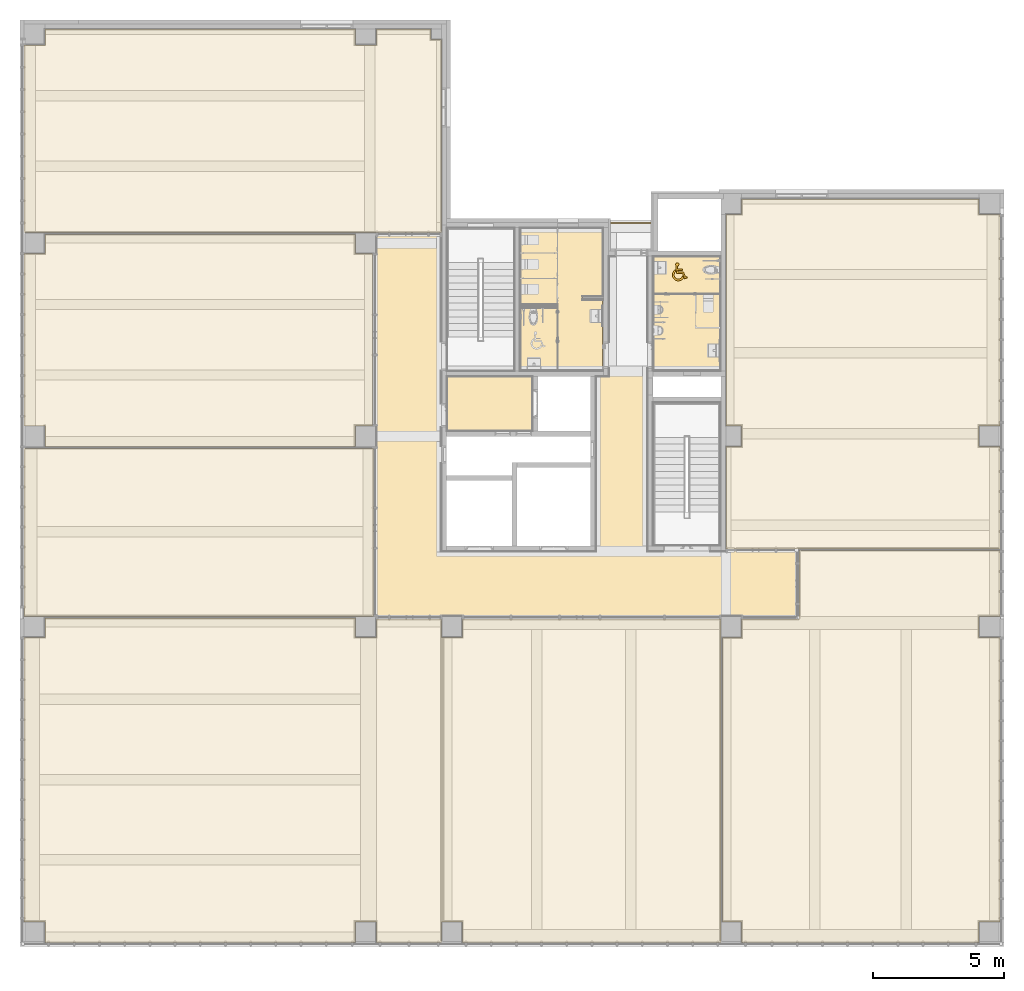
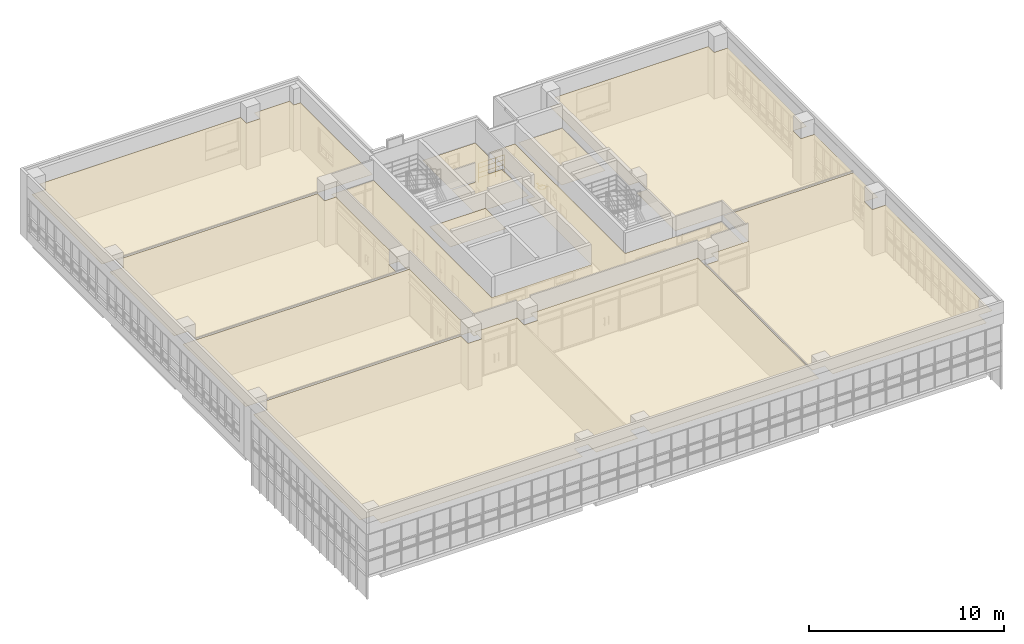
# One storey, part 73 of 81: 5 coverings, 1 door, 1 railing.
"""IFC2X3 building model written with IfcOpenShell, lengths in millimetres."""

from ifc_helpers import new_model, entity, si_unit, converted_unit, derived_unit, direction, frame, frame_2d, origin, origin_2d_with_axis, place, context, subcontext, project, spatial, polyline, circle_curve, parameter, trimmed, segment, composite_curve, rectangle, circle, outline, extrude, source, transform, mapped, material, material_list, layer, layer_set, layer_usage, type_object, type_shapes, element, save


model = new_model("IFC2X3")

# Units and contexts
model_context = context("Model", 3, precision=0.01, world=origin(), true_north=direction((6.123031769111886e-17, 1.0)))
body_context = subcontext(model_context, "Body", "Model", "MODEL_VIEW")
ifc_project = project(units=[si_unit("LENGTHUNIT", "METRE", prefix="MILLI"), si_unit("AREAUNIT", "SQUARE_METRE"), si_unit("VOLUMEUNIT", "CUBIC_METRE"), converted_unit("PLANEANGLEUNIT", "DEGREE", entity("IfcRatioMeasure", 0.017453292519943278), si_unit("PLANEANGLEUNIT", "RADIAN"), dimensions=[0, 0, 0, 0, 0, 0, 0]), si_unit("MASSUNIT", "GRAM", prefix="KILO"), derived_unit("MASSDENSITYUNIT", [(si_unit("MASSUNIT", "GRAM", prefix="KILO"), 1), (si_unit("LENGTHUNIT", "METRE"), -3)]), derived_unit("MOMENTOFINERTIAUNIT", [(si_unit("LENGTHUNIT", "METRE"), 4)]), si_unit("TIMEUNIT", "SECOND"), si_unit("FREQUENCYUNIT", "HERTZ"), si_unit("THERMODYNAMICTEMPERATUREUNIT", "DEGREE_CELSIUS"), derived_unit("THERMALTRANSMITTANCEUNIT", [(si_unit("MASSUNIT", "GRAM", prefix="KILO"), 1), (si_unit("THERMODYNAMICTEMPERATUREUNIT", "KELVIN"), -1), (si_unit("TIMEUNIT", "SECOND"), -3)]), derived_unit("VOLUMETRICFLOWRATEUNIT", [(si_unit("LENGTHUNIT", "METRE"), 3), (si_unit("TIMEUNIT", "SECOND"), -1)]), derived_unit("MASSFLOWRATEUNIT", [(si_unit("MASSUNIT", "GRAM", prefix="KILO"), 1), (si_unit("TIMEUNIT", "SECOND"), -1)]), derived_unit("ROTATIONALFREQUENCYUNIT", [(si_unit("TIMEUNIT", "SECOND"), -1)]), si_unit("ELECTRICCURRENTUNIT", "AMPERE"), si_unit("ELECTRICVOLTAGEUNIT", "VOLT"), si_unit("POWERUNIT", "WATT"), si_unit("FORCEUNIT", "NEWTON", prefix="KILO"), si_unit("ILLUMINANCEUNIT", "LUX"), si_unit("LUMINOUSFLUXUNIT", "LUMEN"), si_unit("LUMINOUSINTENSITYUNIT", "CANDELA"), derived_unit("USERDEFINED", [(si_unit("MASSUNIT", "GRAM", prefix="KILO"), -1), (si_unit("LENGTHUNIT", "METRE"), -2), (si_unit("TIMEUNIT", "SECOND"), 3), (si_unit("LUMINOUSFLUXUNIT", "LUMEN"), 1)]), derived_unit("SOUNDPOWERUNIT", [(si_unit("MASSUNIT", "GRAM", prefix="KILO"), 1), (si_unit("LENGTHUNIT", "METRE"), 2), (si_unit("TIMEUNIT", "SECOND"), -3)]), derived_unit("SOUNDPRESSUREUNIT", [(si_unit("MASSUNIT", "GRAM", prefix="KILO"), 1), (si_unit("LENGTHUNIT", "METRE"), -1), (si_unit("TIMEUNIT", "SECOND"), -2)]), derived_unit("LINEARVELOCITYUNIT", [(si_unit("LENGTHUNIT", "METRE"), 1), (si_unit("TIMEUNIT", "SECOND"), -1)]), si_unit("PRESSUREUNIT", "PASCAL"), derived_unit("USERDEFINED", [(si_unit("LENGTHUNIT", "METRE"), -2), (si_unit("MASSUNIT", "GRAM", prefix="KILO"), 1), (si_unit("TIMEUNIT", "SECOND"), -2)]), derived_unit("LINEARFORCEUNIT", [(si_unit("MASSUNIT", "GRAM", prefix="KILO"), 1), (si_unit("LENGTHUNIT", "METRE"), 1), (si_unit("TIMEUNIT", "SECOND"), -2), (si_unit("LENGTHUNIT", "METRE"), -1)]), derived_unit("PLANARFORCEUNIT", [(si_unit("MASSUNIT", "GRAM", prefix="KILO"), 1), (si_unit("LENGTHUNIT", "METRE"), 1), (si_unit("TIMEUNIT", "SECOND"), -2), (si_unit("LENGTHUNIT", "METRE"), -2)])], contexts=[model_context])

# Site, building, storey
site_placement = place(None, frame((-14167.972527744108, -657.2125860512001, 0.0)))
site = spatial("IfcSite", under=ifc_project, at=site_placement, Name="Default", CompositionType="ELEMENT")
building_placement = place(site_placement, origin())
building = spatial("IfcBuilding", under=site, at=building_placement, Name="Sample Building", CompositionType="ELEMENT")
storey_placement = place(building_placement, frame((0.0, 0.0, 13400.0)))
storey = spatial("IfcBuildingStorey", under=building, at=storey_placement, Name="지상 4층", CompositionType="ELEMENT", Elevation=13400.00000000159)

# Door
ifc_material_1 = material(Name="KBIMS-노면용 페인트_진하늘색")
ifc_material_list_1 = material_list([ifc_material_1, ifc_material_1])
door_style = type_object("IfcDoorStyle", Name="SE251-장애인전용 표시:SE251-장애인전용 표시", ConstructionType="NOTDEFINED", OperationType="NOTDEFINED", ParameterTakesPrecedence=False, Sizeable=False, material=ifc_material_list_1)
shared_shape = source(origin(), body_context, "Body", "SweptSolid", [
    extrude(outline(composite_curve([segment(trimmed(circle_curve(frame_2d((-36.68855283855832, -47.74251805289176), x_axis=(1.0, 0.0)), 229.68578343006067), [parameter(118.63343780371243)], [parameter(330.18087778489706)], True, "PARAMETER"), True, "CONTINUOUS"), segment(polyline([(162.58672770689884, -161.9568852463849), (125.13875807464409, -69.8626552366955)]), True, "CONTINUOUS"), segment(trimmed(circle_curve(frame_2d((-36.68855283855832, -47.74251805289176), x_axis=(1.0, 0.0)), 163.33211266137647), [parameter(129.67752554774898)], [parameter(352.21649007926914)], True, "PARAMETER"), False, "CONTINUOUS"), segment(polyline([(-140.97054841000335, 77.96605136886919), (-146.7549373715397, 153.85348911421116)]), True, "CONTINUOUS")], self_intersect=False)), frame((71.31807136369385, -37.57408412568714, 0.0)), (0.0, 0.0, 1.0), 1.5875),
    extrude(outline(composite_curve([segment(polyline([(-282.31222354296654, -186.97456283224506), (25.012127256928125, -186.974562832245)]), True, "CONTINUOUS"), segment(polyline([(25.012127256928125, -186.974562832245), (42.305091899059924, 39.89793596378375)]), True, "CONTINUOUS"), segment(polyline([(42.30509189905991, 39.89793596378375), (263.5159692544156, 110.7895168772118)]), True, "CONTINUOUS"), segment(polyline([(263.5159692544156, 110.7895168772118), (230.53394569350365, 215.81642815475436)]), True, "CONTINUOUS"), segment(polyline([(230.53394569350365, 215.81642815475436), (181.07321552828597, 202.95741624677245)]), True, "CONTINUOUS"), segment(polyline([(181.07321552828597, 202.95741624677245), (198.08692429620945, 148.77950087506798)]), True, "CONTINUOUS"), segment(polyline([(198.08692429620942, 148.77950087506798), (-10.806586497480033, 81.83527372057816)]), True, "CONTINUOUS"), segment(polyline([(-10.806586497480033, 81.83527372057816), (-27.016565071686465, -130.829149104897)]), True, "CONTINUOUS"), segment(polyline([(-27.01656507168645, -130.829149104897), (-74.51295100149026, -130.82914910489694)]), True, "CONTINUOUS"), segment(polyline([(-74.51295100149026, -130.82914910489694), (-60.984513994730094, 46.65518467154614)]), True, "CONTINUOUS"), segment(polyline([(-60.984513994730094, 46.65518467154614), (-111.87816757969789, 50.53446557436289)]), True, "CONTINUOUS"), segment(polyline([(-111.87816757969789, 50.53446557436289), (-125.70229607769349, -130.82914910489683)]), True, "CONTINUOUS"), segment(polyline([(-125.70229607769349, -130.82914910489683), (-247.3139701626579, -130.8291491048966)]), True, "CONTINUOUS"), segment(trimmed(circle_curve(frame_2d((-311.1107235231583, -130.04222235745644), x_axis=(0.07600280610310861, 0.9971076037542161)), 63.80160650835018), [parameter(273.6521413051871)], [parameter(211.19083029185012)], True, "PARAMETER"), True, "CONTINUOUS")], self_intersect=False)), frame((145.3871253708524, 15.097937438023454, 0.0), z_axis=(0.0, 0.0, 1.0), x_axis=(0.07600280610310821, -0.9971076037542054, 0.0)), (0.0, 0.0, 1.0), 1.5875),
])
type_shapes(door_style, [shared_shape])
door_placement = place(storey_placement, frame((39107.972527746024, 26227.212300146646, 0.0)))
element("IfcDoor", 1, at=door_placement, inside=storey, type_object=door_style, material=ifc_material_1, Name="SE251-장애인전용 표시:SE251-장애인전용 표시", ObjectType="SE251-장애인전용 표시:SE251-장애인전용 표시", OverallHeight=1.5875, OverallWidth=572.3706125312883, context=body_context, shape_type="MappedRepresentation", body=[
    mapped(shared_shape, transform((0.0, 0.0, 0.0), scale=1.0)),
])

# Covering
ifc_material_2 = material(Name="CE782-경량철골천장틀(M-Bar) 천장")
ifc_layer_1 = layer(ifc_material_2, 1.0)
ifc_material_3 = material(Name="CE742-무석면텍스 천장 (시멘트계천장재) (6mm)")
ifc_layer_2 = layer(ifc_material_3, 6.0)
ifc_layer_set_1 = layer_set([ifc_layer_1, ifc_layer_2], Name="복합 천장:A1-44-11A-경량철골천장틀(M-Bar), 무석면텍스 (7mm)")
ifc_layer_usage_1 = layer_usage(ifc_layer_set_1, "AXIS3", "POSITIVE", 0.0)
covering_type_1 = type_object("IfcCoveringType", Name="복합 천장:A1-44-11A-경량철골천장틀(M-Bar), 무석면텍스 (7mm)", PredefinedType="CEILING")
covering_1_placement = place(storey_placement, origin())
element("IfcCovering", 2, at=covering_1_placement, inside=storey, type_object=covering_type_1, material=ifc_layer_usage_1, Name="복합 천장:A1-44-11A-경량철골천장틀(M-Bar), 무석면텍스 (7mm)", ObjectType="복합 천장:A1-44-11A-경량철골천장틀(M-Bar), 무석면텍스 (7mm)", PredefinedType="CEILING", context=body_context, shape_type="SweptSolid", body=[
    extrude(outline(polyline([(-4932.18642306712, -8116.062794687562), (4167.8222732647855, -8116.062794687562), (4167.822273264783, -7316.062568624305), (4967.80491472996, -7316.062568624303), (4967.804914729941, 3583.9378532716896), (4167.813571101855, 3583.937853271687), (4167.813571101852, 4383.937853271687), (4967.804914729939, 4383.93785327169), (4967.80491472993, 6911.437709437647), (-2737.186423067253, 6911.437709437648), (-2737.186423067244, 4293.937506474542), (-4932.186423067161, 4293.9375064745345), (-4932.186423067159, 3574.9374313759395), (-5669.686404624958, 3574.9374313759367), (-5669.686404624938, -7316.062990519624), (-4932.186423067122, -7316.062990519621), (-4932.18642306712, -8116.062794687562)])), frame((46500.158914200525, 8673.274876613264, 2980.0)), (0.0, 0.0, 1.0), 7.000000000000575),
    extrude(outline(polyline([(-2646.156546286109, -2046.1538456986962), (9253.843490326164, -2046.1538456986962), (9253.84349032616, -1446.1538311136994), (10053.843508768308, -1446.1538311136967), (10053.843508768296, 5753.8461414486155), (-3446.1565462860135, 5753.846141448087), (-5946.147816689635, 5753.846141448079), (-5946.147816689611, -1646.1538585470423), (-5546.147816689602, -1646.153858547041), (-5546.147816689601, -2046.1538456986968), (-3446.156546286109, -2046.1538456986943), (-3446.156546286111, -1446.1538311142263), (-2646.156546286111, -1446.1538311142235), (-2646.156546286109, -2046.1538456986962)])), frame((24121.815944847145, 33511.05844944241, 2980.0), z_axis=(0.0, 0.0, 1.0), x_axis=(-1.0, 0.0, 0.0)), (0.0, 0.0, 1.0), 7.000000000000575),
    extrude(outline(polyline([(-3310.4165688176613, -6725.852431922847), (3289.5834311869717, -6725.852431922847), (3289.5834311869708, -5925.852431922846), (4089.5831221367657, -5925.852431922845), (4089.5831221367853, 5974.147604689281), (3289.583431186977, 5974.14760468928), (3289.583431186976, 6629.262086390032), (-3310.416568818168, 6629.262086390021), (-3310.416568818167, 5974.147604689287), (-4047.9168468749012, 5974.147604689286), (-4047.916846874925, -5925.852431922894), (-3310.416568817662, -5925.852431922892), (-3310.4165688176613, -6725.852431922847)])), frame((20793.82488644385, 23646.795739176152, 2980.0), z_axis=(0.0, 0.0, 1.0), x_axis=(0.0, -1.0, 0.0)), (0.0, 0.0, 1.0), 7.000000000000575),
    extrude(rectangle(XDim=13400.025209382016, YDim=6437.5003090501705, at=frame_2d((-4.092726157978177e-12, 1.0913936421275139e-11), x_axis=(1.0, 0.0))), frame((20767.967709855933, 16275.962462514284, 2980.0), z_axis=(0.0, 0.0, 1.0), x_axis=(-1.0, 0.0, 0.0)), (0.0, 0.0, 1.0), 7.000000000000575),
    extrude(outline(polyline([(-5689.722923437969, -12346.499216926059), (5210.277498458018, -12346.499216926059), (5210.277498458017, -11546.499333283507), (6010.277089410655, -11546.499333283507), (6010.277089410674, 353.5007033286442), (5210.277498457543, 353.5007033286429), (5210.277498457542, 1153.5007033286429), (6010.277089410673, 1153.5007033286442), (6010.277089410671, 3653.5006758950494), (5210.277498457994, 3653.5006758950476), (5210.277498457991, 4453.500675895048), (6010.277302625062, 4453.500675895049), (6010.277302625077, 14353.500703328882), (-6389.723201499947, 14353.500703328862), (-6389.723201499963, 4453.500675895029), (-5680.722923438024, 4453.50067589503), (-5680.722923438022, 3653.5006758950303), (-6389.688239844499, 3653.5006758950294), (-6389.688239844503, 1153.5007033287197), (-5689.722923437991, 1153.5007033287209), (-5689.722923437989, 353.5007033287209), (-6427.222514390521, 353.50070332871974), (-6427.22251439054, -11546.499333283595), (-5689.72292343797, -11546.499333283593), (-5689.722923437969, -12346.499216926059)])), frame((26414.471787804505, 6567.489384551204, 2980.0), z_axis=(0.0, 0.0, 1.0), x_axis=(0.0, -1.0, 0.0)), (0.0, 0.0, 1.0), 7.000000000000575),
    extrude(outline(polyline([(-3123.7500441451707, 4500.009801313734), (-3123.7500441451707, 5299.992415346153), (-7033.749766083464, 5299.992415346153), (-7033.749766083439, -5200.007615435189), (-3123.7500441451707, -5200.007615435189), (-3123.7500441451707, -4599.998942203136), (-2323.7500441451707, -4599.998942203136), (-2323.7500441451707, -5200.007615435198), (5776.2499558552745, -5200.007615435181), (5776.2499558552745, -4599.998922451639), (6376.249943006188, -4599.998922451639), (6376.249943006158, 4500.009801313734), (5776.250043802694, 4500.009801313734), (5776.250043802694, 5300.001077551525), (-2323.7500441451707, 5300.001077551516), (-2323.7500441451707, 4500.009801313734), (-3123.7500441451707, 4500.009801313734)])), frame((46167.971413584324, 22680.962352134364, 2980.0), z_axis=(0.0, 0.0, -1.0), x_axis=(0.0, 1.0, 0.0)), (0.0, 0.0, -1.0), 7.000000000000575),
])

# Space
space_1_placement = place(storey_placement, origin())
space_1 = spatial("IfcSpace", under=storey, at=space_1_placement, Name="216", CompositionType="ELEMENT", InteriorOrExteriorSpace="INTERNAL")

# Covering
ifc_layer_usage_2 = layer_usage(ifc_layer_set_1, "AXIS3", "POSITIVE", 0.0)
covering_type_2 = type_object("IfcCoveringType", Name="복합 천장:A1-44-11A-경량철골천장틀(M-Bar), 무석면텍스 (7mm)", PredefinedType="CEILING")
covering_2_placement = place(space_1_placement, origin())
element("IfcCovering", 3, at=covering_2_placement, inside=space_1, type_object=covering_type_2, material=ifc_layer_usage_2, Name="복합 천장:A1-44-11A-경량철골천장틀(M-Bar), 무석면텍스 (7mm)", ObjectType="복합 천장:A1-44-11A-경량철골천장틀(M-Bar), 무석면텍스 (7mm)", PredefinedType="CEILING", context=body_context, shape_type="SweptSolid", body=[
    extrude(outline(polyline([(4110.532293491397, -8660.169960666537), (6610.523563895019, -8660.169960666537), (6610.523563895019, -7960.204644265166), (6610.523563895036, -1360.2046442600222), (6610.523563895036, -560.2046442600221), (6610.523563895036, 5948.795355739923), (4110.523591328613, 5948.795355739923), (3310.5235913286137, 5948.795355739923), (-6589.47643610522, 5948.795355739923), (-7389.47643610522, 5948.795355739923), (-9489.476436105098, 5948.795355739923), (-9489.476436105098, 3434.795422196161), (-3789.467743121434, 3434.795422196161), (-3789.467743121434, -7860.204631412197), (-2289.467743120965, -7860.204631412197), (-2289.467743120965, -3260.2046476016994), (-1789.4764361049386, -3260.2046476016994), (-1789.4764361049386, 3439.7047166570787), (4110.532293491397, 3439.7047166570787), (4110.532293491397, -8660.169960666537)])), frame((34178.49605502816, 18997.007663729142, 2680.0), z_axis=(0.0, 0.0, 1.0), x_axis=(-1.0, 0.0, 0.0)), (0.0, 0.0, 1.0), 7.000000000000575),
])

# Space
space_2_placement = place(storey_placement, origin())
space_2 = spatial("IfcSpace", under=storey, at=space_2_placement, Name="223", CompositionType="ELEMENT", InteriorOrExteriorSpace="INTERNAL")

# Coverings
ifc_layer_usage_3 = layer_usage(ifc_layer_set_1, "AXIS3", "POSITIVE", 0.0)
covering_type_3 = type_object("IfcCoveringType", Name="복합 천장:A1-44-11A-경량철골천장틀(M-Bar), 무석면텍스 (7mm)", PredefinedType="CEILING")
covering_3_placement = place(space_2_placement, origin())
element("IfcCovering", 4, at=covering_3_placement, inside=space_2, type_object=covering_type_3, material=ifc_layer_usage_3, Name="복합 천장:A1-44-11A-경량철골천장틀(M-Bar), 무석면텍스 (7mm)", ObjectType="복합 천장:A1-44-11A-경량철골천장틀(M-Bar), 무석면텍스 (7mm)", PredefinedType="CEILING", context=body_context, shape_type="SweptSolid", body=[
    extrude(rectangle(XDim=2100.000003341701, YDim=3300.0087295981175, at=frame_2d((0.0, 2.1600499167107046e-12), x_axis=(1.0, 0.0))), frame((31917.96812633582, 21207.212309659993, 2980.0), z_axis=(0.0, 0.0, 1.0), x_axis=(0.0, -1.0, 0.0)), (0.0, 0.0, 1.0), 7.000000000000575),
])
ifc_layer_3 = layer(ifc_material_2, 1.0)
ifc_material_4 = material(Name="CE761-열경화성수지 천장 (300x300x1.2mm)")
ifc_layer_4 = layer(ifc_material_4, 1.0)
ifc_layer_set_2 = layer_set([ifc_layer_3, ifc_layer_4], Name="복합 천장:A1-45-06A-경량철골천장틀(M-Bar), 열경화성수지(300x300x1.2mm) (2mm) TYPE-D")
ifc_layer_usage_4 = layer_usage(ifc_layer_set_2, "AXIS3", "POSITIVE", 0.0)
covering_type_4 = type_object("IfcCoveringType", Name="복합 천장:A1-45-06A-경량철골천장틀(M-Bar), 열경화성수지(300x300x1.2mm) (2mm) TYPE-D", PredefinedType="CEILING")
covering_4_placement = place(storey_placement, origin())
element("IfcCovering", 5, at=covering_4_placement, inside=storey, type_object=covering_type_4, material=ifc_layer_usage_4, Name="복합 천장:A1-45-06A-경량철골천장틀(M-Bar), 열경화성수지(300x300x1.2mm) (2mm) TYPE-D", ObjectType="복합 천장:A1-45-06A-경량철골천장틀(M-Bar), 열경화성수지(300x300x1.2mm) (2mm) TYPE-D", PredefinedType="CEILING", context=body_context, shape_type="SweptSolid", body=[
    extrude(outline(polyline([(-1462.494197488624, -2793.4894692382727), (1677.4883734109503, -2793.4894692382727), (1677.4883734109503, 146.97894098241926), (262.5058456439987, 146.97894098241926), (262.5058456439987, 236.97894098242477), (1677.4883734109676, 236.97894098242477), (1677.4883734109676, 2646.510527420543), (-1462.494197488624, 2646.510527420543), (-1462.494197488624, -73.48947090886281), (-692.4941974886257, -73.48947090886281), (-692.4941974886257, -163.48946923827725), (-1462.494197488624, -163.48946923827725), (-1462.494197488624, -2793.4894692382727)])), frame((34775.46960066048, 25133.72283875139, 2690.0), z_axis=(0.0, 0.0, 1.0), x_axis=(-1.0, 0.0, 0.0)), (0.0, 0.0, 1.0), 1.9999999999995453),
])
ifc_layer_usage_5 = layer_usage(ifc_layer_set_2, "AXIS3", "POSITIVE", 0.0)
covering_type_5 = type_object("IfcCoveringType", Name="복합 천장:A1-45-06A-경량철골천장틀(M-Bar), 열경화성수지(300x300x1.2mm) (2mm) TYPE-D", PredefinedType="CEILING")
covering_5_placement = place(storey_placement, origin())
element("IfcCovering", 6, at=covering_5_placement, inside=storey, type_object=covering_type_5, material=ifc_layer_usage_5, Name="복합 천장:A1-45-06A-경량철골천장틀(M-Bar), 열경화성수지(300x300x1.2mm) (2mm) TYPE-D", ObjectType="복합 천장:A1-45-06A-경량철골천장틀(M-Bar), 열경화성수지(300x300x1.2mm) (2mm) TYPE-D", PredefinedType="CEILING", context=body_context, shape_type="SweptSolid", body=[
    extrude(rectangle(XDim=2600.0000000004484, YDim=4399.999996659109, at=origin_2d_with_axis()), frame((39467.963798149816, 24657.212296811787, 2690.0), z_axis=(0.0, 0.0, 1.0), x_axis=(-1.0, 0.0, 0.0)), (0.0, 0.0, 1.0), 1.9999999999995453),
])

# Railing
ifc_material_5 = material(Name="KBIMS-난간")
ifc_material_6 = material(Name="KBIMS-금속재")
ifc_material_list_2 = material_list([ifc_material_5, ifc_material_5, ifc_material_5, ifc_material_6, ifc_material_6, ifc_material_6, ifc_material_6])
railing_placement = place(storey_placement, origin())
element("IfcRailing", 7, at=railing_placement, inside=storey, material=ifc_material_list_2, Name="난간:RL780-금속재 난간", ObjectType="난간:RL780-금속재 난간", PredefinedType="NOTDEFINED", context=body_context, shape_type="SweptSolid", body=[
    extrude(rectangle(XDim=24.99999999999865, YDim=24.99999999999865, at=origin_2d_with_axis()), frame((37547.963798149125, 28132.212307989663, 0.0)), (0.0, 0.0, 1.0), 1164.9999999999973),
    extrude(rectangle(XDim=24.99999999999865, YDim=24.99999999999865, at=frame_2d((-4.331646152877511e-12, 0.0), x_axis=(1.0, 0.0))), frame((38075.47249112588, 28132.212307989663, 0.0)), (0.0, 0.0, 1.0), 1164.9999999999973),
    extrude(rectangle(XDim=24.99999999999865, YDim=24.99999999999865, at=origin_2d_with_axis()), frame((36547.963798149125, 28132.212307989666, 0.0)), (0.0, 0.0, 1.0), 1164.9999999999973),
    extrude(circle(Radius=17.5, at=origin_2d_with_axis()), frame((36547.963798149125, 28132.212307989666, 1182.4999999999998), z_axis=(1.0, 0.0, 0.0), x_axis=(0.0, -1.0, 0.0)), (0.0, 0.0, 1.0), 1540.008692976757),
    extrude(circle(Radius=17.5, at=origin_2d_with_axis()), frame((36547.963798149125, 28132.212307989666, 882.5000000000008), z_axis=(1.0, 0.0, 0.0), x_axis=(0.0, -1.0, 0.0)), (0.0, 0.0, 1.0), 1540.008692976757),
    extrude(circle(Radius=17.5, at=origin_2d_with_axis()), frame((36547.963798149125, 28132.212307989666, 582.4999999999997), z_axis=(1.0, 0.0, 0.0), x_axis=(0.0, -1.0, 0.0)), (0.0, 0.0, 1.0), 1540.008692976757),
    extrude(circle(Radius=17.5, at=origin_2d_with_axis()), frame((36547.963798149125, 28132.212307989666, 282.4999999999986), z_axis=(1.0, 0.0, 0.0), x_axis=(0.0, -1.0, 0.0)), (0.0, 0.0, 1.0), 1540.008692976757),
])

save(model, "model.ifc")
